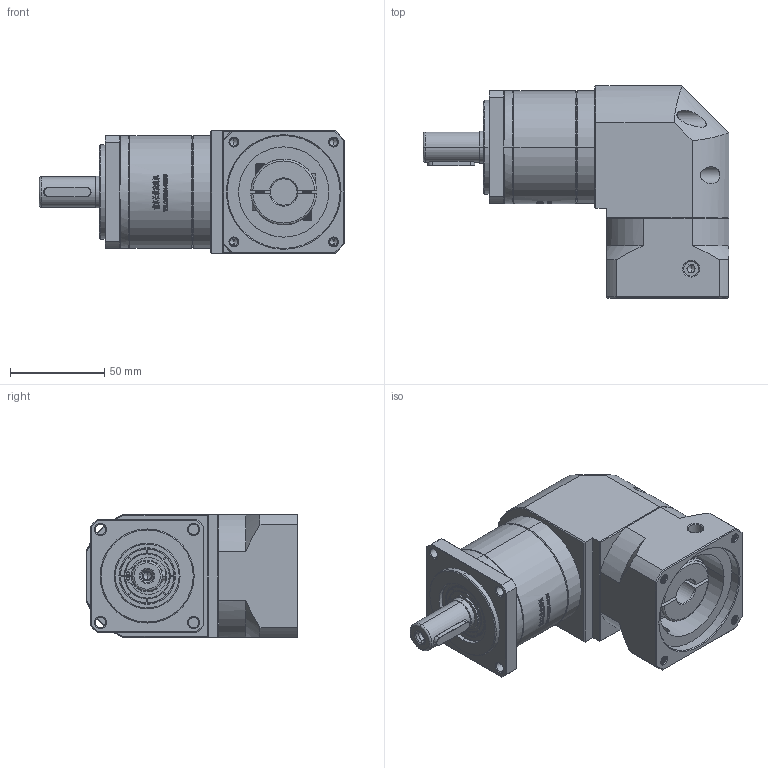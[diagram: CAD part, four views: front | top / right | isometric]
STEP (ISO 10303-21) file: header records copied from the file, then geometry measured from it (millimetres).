
FILE_DESCRIPTION (( 'STEP AP214' ), '1' );
FILE_NAME ('ZFR60-D16-L1-14-60-75-M5.STEP', '2022-04-20T09:07:12', ( '' ), ( 'Microsoft' ), 'SwSTEP 2.0', 'SolidWorks 2016', '' );
FILE_SCHEMA (( 'AUTOMOTIVE_DESIGN' ));
Length unit declared in the file: millimetre
Products named in the file (1): ZFR60-D16-L1-14-60-75-M5
Bounding box: 162.5 x 112.7 x 65 mm (x, y, z)
Volume: 552939 mm3; surface area: 80266.2 mm2
Topology: 5 solids, 6 shells, 2692 faces, 7345 edges, 4790 vertices
Faces by surface type: plane 1397, bspline 579, cylinder 402, cone 290, torus 24
Entity records: 149204 total; most frequent: CARTESIAN_POINT 57047, ORIENTED_EDGE 14646, DIRECTION 10548, EDGE_CURVE 7323, VERTEX_POINT 4790, VECTOR 4402, LINE 4402, AXIS2_PLACEMENT_3D 3073
